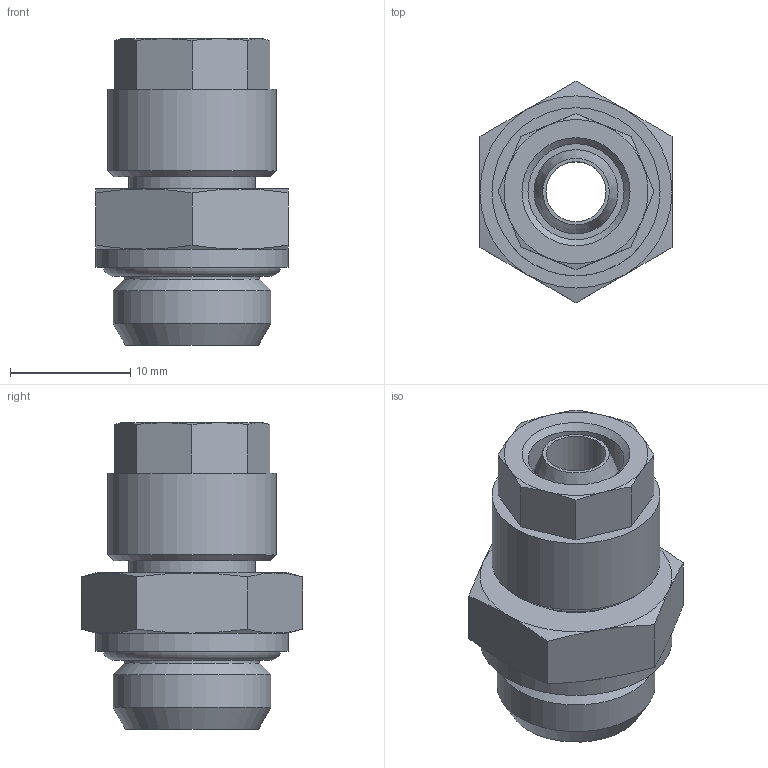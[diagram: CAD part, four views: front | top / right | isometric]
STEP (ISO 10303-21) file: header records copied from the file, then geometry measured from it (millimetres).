
FILE_DESCRIPTION(/* description */ (''),/* implementation_level */ '2;1');
FILE_NAME(/* name */ '10213_301Z_86_14_10.09.15',/* time_stamp */ '2015-09-10T09:34:39+02:00',/* author */ (''),/* organization */ (''),/* preprocessor_version */ 'ST-DEVELOPER v14',/* originating_system */ 'HiCAD 2013 1802.4 Build 509',/* authorisation */ '');
FILE_SCHEMA (('AUTOMOTIVE_DESIGN { 1 0 10303 214 1 1 1 1 }'));
Length unit declared in the file: millimetre
Products named in the file (4): Root; R10213; 17006; OR 11.11X1.78
Assembly tree (3 placements, depth 2):
  Root
    R10213
    17006
    OR 11.11X1.78
Bounding box: 16 x 18.48 x 25.5 mm (x, y, z)
Volume: 3038.4 mm3; surface area: 3170.4 mm2
Topology: 3 solids, 3 shells, 71 faces, 158 edges, 98 vertices
Faces by surface type: cone 32, plane 24, cylinder 11, torus 4
Full cylindrical faces by diameter (mm): 5 x1, 6.5 x1, 8 x2, 10.5 x1, 10.773 x1, 11.2 x1, 12 x1, 13.157 x1, 14 x1, 16 x1
Entity records: 2969 total; most frequent: DIRECTION 364, CARTESIAN_POINT 276, PRESENTATION_STYLE_ASSIGNMENT 235, COLOUR_RGB 234, DRAUGHTING_PRE_DEFINED_CURVE_FONT 232, CURVE_STYLE 232, OVER_RIDING_STYLED_ITEM 232, ORIENTED_EDGE 232
